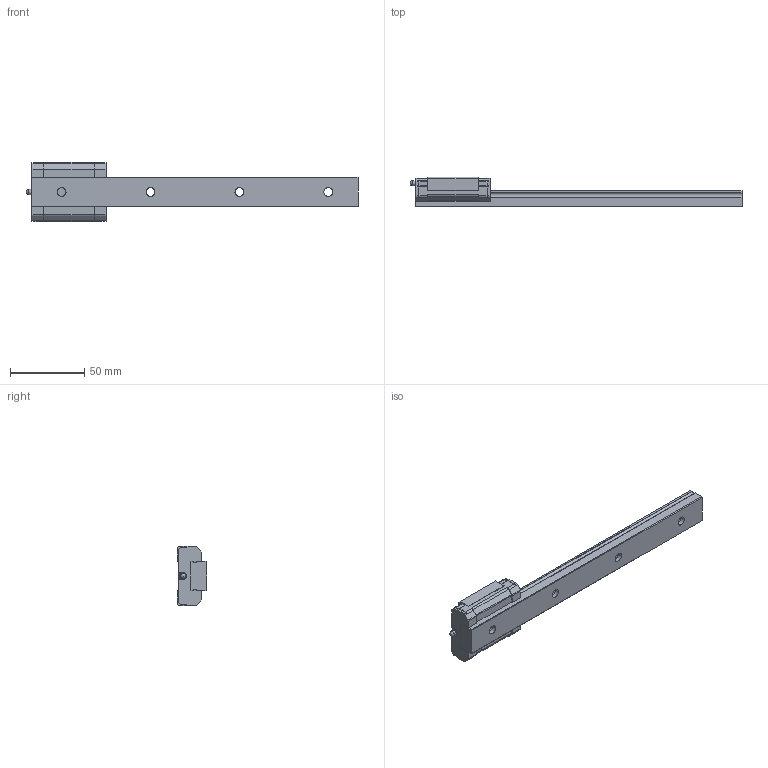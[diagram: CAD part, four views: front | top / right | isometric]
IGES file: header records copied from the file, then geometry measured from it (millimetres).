
Start section: Data from Parasolid IGES Translator 26.0.171, Copyright(c) 2006 Siemens PLM Software. All Rights Reserved.
Global section: file name: SRS20GMSS-220LM_G20_0_PB107_0_0_0_0_1.igs; native system: By Siemens PLM Incorporated; preprocessor: XPlus GENERIC/IGES 26.0.171; author: Noname; organization: Noname; date: 20240517.102451; units: millimetre
Bounding box: 224 x 20 x 40 mm (x, y, z)
Surface area: 22713.4 mm2 (no closed solid volume)
Topology: 0 solids, 0 shells, 211 faces, 1151 edges, 1117 vertices
Faces by surface type: extrusion 123, revolution 88
